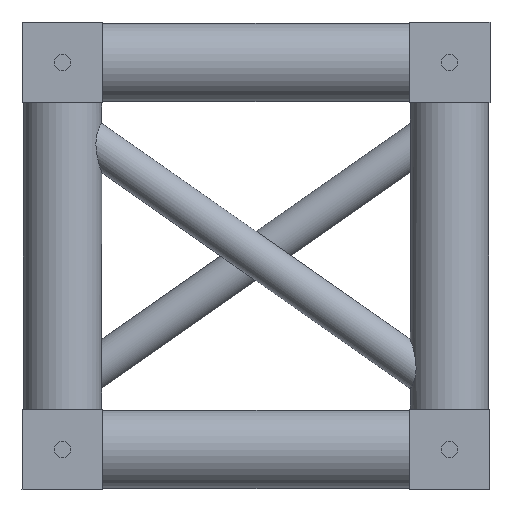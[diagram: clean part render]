
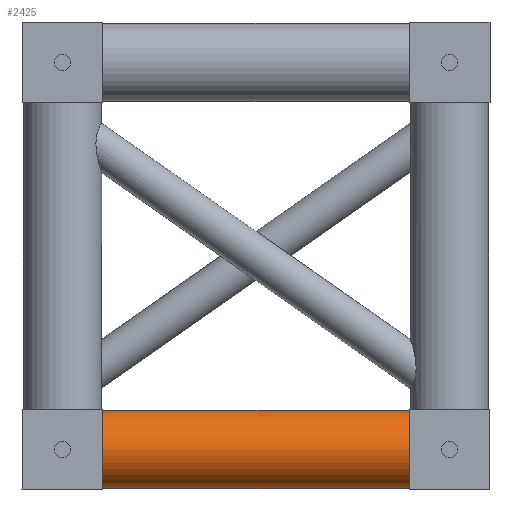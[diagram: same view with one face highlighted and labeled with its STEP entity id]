
A CAD part, front view. The second image highlights one B-rep face of the part: STEP entity #2425.
In plain terms, the highlighted cylindrical face has radius 24.15 mm (diameter 48.3 mm), a full revolution.
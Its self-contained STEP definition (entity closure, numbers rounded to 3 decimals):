
#211=ELLIPSE('',#2599,55.09,24.15);
#410=FACE_BOUND('',#701,.T.);
#411=FACE_BOUND('',#702,.T.);
#540=FACE_OUTER_BOUND('',#700,.T.);
#700=EDGE_LOOP('',(#1615));
#701=EDGE_LOOP('',(#1616));
#702=EDGE_LOOP('',(#1617,#1618));
#970=CIRCLE('',#2597,24.15);
#971=CIRCLE('',#2598,24.15);
#1050=B_SPLINE_CURVE_WITH_KNOTS('',3,(#4025,#4026,#4027,#4028,#4029,#4030,
#4031,#4032,#4033,#4034,#4035,#4036,#4037,#4038,#4039,#4040,#4041,#4042,
#4043,#4044,#4045,#4046,#4047,#4048,#4049,#4050,#4051,#4052,#4053,#4054,
#4055,#4056,#4057,#4058,#4059),.UNSPECIFIED.,.F.,.F.,(4,2,2,2,2,2,2,2,2,
2,2,2,2,3,2,2,4),(3.129,3.356,3.6,3.843,
4.434,5.024,5.508,5.75,5.992,
6.233,6.475,6.959,7.549,8.14,
8.383,8.627,8.854),.UNSPECIFIED.);
#1075=VERTEX_POINT('',#4019);
#1076=VERTEX_POINT('',#4021);
#1077=VERTEX_POINT('',#4023);
#1078=VERTEX_POINT('',#4024);
#1305=EDGE_CURVE('',#1075,#1075,#970,.T.);
#1306=EDGE_CURVE('',#1076,#1076,#971,.T.);
#1307=EDGE_CURVE('',#1077,#1078,#1050,.T.);
#1308=EDGE_CURVE('',#1078,#1077,#211,.T.);
#1615=ORIENTED_EDGE('',*,*,#1305,.F.);
#1616=ORIENTED_EDGE('',*,*,#1306,.F.);
#1617=ORIENTED_EDGE('',*,*,#1307,.F.);
#1618=ORIENTED_EDGE('',*,*,#1308,.F.);
#2198=CYLINDRICAL_SURFACE('',#2596,24.15);
#2425=ADVANCED_FACE('',(#540,#410,#411),#2198,.T.);
#2596=AXIS2_PLACEMENT_3D('',#4018,#2975,#2976);
#2597=AXIS2_PLACEMENT_3D('',#4020,#2977,#2978);
#2598=AXIS2_PLACEMENT_3D('',#4022,#2979,#2980);
#2599=AXIS2_PLACEMENT_3D('',#4060,#2981,#2982);
#2975=DIRECTION('center_axis',(1.,0.,0.));
#2976=DIRECTION('ref_axis',(0.,-0.868,0.497));
#2977=DIRECTION('center_axis',(-1.,0.,0.));
#2978=DIRECTION('ref_axis',(0.,-0.868,0.497));
#2979=DIRECTION('center_axis',(1.,0.,0.));
#2980=DIRECTION('ref_axis',(0.,-0.868,0.497));
#2981=DIRECTION('center_axis',(-0.438,0.899,0.));
#2982=DIRECTION('ref_axis',(-0.899,-0.438,0.));
#4018=CARTESIAN_POINT('Origin',(25.,-339.,-239.));
#4019=CARTESIAN_POINT('',(25.,-318.04,-250.997));
#4020=CARTESIAN_POINT('Origin',(25.,-339.,-239.));
#4021=CARTESIAN_POINT('',(214.,-318.04,-250.997));
#4022=CARTESIAN_POINT('Origin',(214.,-339.,-239.));
#4023=CARTESIAN_POINT('',(199.088,-317.268,-249.533));
#4024=CARTESIAN_POINT('',(199.088,-317.268,-228.467));
#4025=CARTESIAN_POINT('Ctrl Pts',(199.088,-317.268,-249.533));
#4026=CARTESIAN_POINT('Ctrl Pts',(198.451,-317.473,-249.956));
#4027=CARTESIAN_POINT('Ctrl Pts',(197.759,-317.664,-250.318));
#4028=CARTESIAN_POINT('Ctrl Pts',(196.253,-317.992,-250.916));
#4029=CARTESIAN_POINT('Ctrl Pts',(195.431,-318.124,-251.143));
#4030=CARTESIAN_POINT('Ctrl Pts',(193.77,-318.297,-251.435));
#4031=CARTESIAN_POINT('Ctrl Pts',(192.931,-318.337,-251.5));
#4032=CARTESIAN_POINT('Ctrl Pts',(190.151,-318.337,-251.5));
#4033=CARTESIAN_POINT('Ctrl Pts',(188.078,-318.094,-251.116));
#4034=CARTESIAN_POINT('Ctrl Pts',(184.199,-317.337,-249.705));
#4035=CARTESIAN_POINT('Ctrl Pts',(182.391,-316.835,-248.676));
#4036=CARTESIAN_POINT('Ctrl Pts',(179.712,-316.003,-246.451));
#4037=CARTESIAN_POINT('Ctrl Pts',(178.566,-315.604,-245.171));
#4038=CARTESIAN_POINT('Ctrl Pts',(177.363,-315.169,-242.984));
#4039=CARTESIAN_POINT('Ctrl Pts',(177.046,-315.051,-242.21));
#4040=CARTESIAN_POINT('Ctrl Pts',(176.62,-314.891,-240.621));
#4041=CARTESIAN_POINT('Ctrl Pts',(176.511,-314.85,-239.806));
#4042=CARTESIAN_POINT('Ctrl Pts',(176.511,-314.85,-238.194));
#4043=CARTESIAN_POINT('Ctrl Pts',(176.62,-314.891,-237.379));
#4044=CARTESIAN_POINT('Ctrl Pts',(177.046,-315.051,-235.79));
#4045=CARTESIAN_POINT('Ctrl Pts',(177.363,-315.169,-235.016));
#4046=CARTESIAN_POINT('Ctrl Pts',(178.566,-315.604,-232.829));
#4047=CARTESIAN_POINT('Ctrl Pts',(179.712,-316.003,-231.549));
#4048=CARTESIAN_POINT('Ctrl Pts',(182.391,-316.835,-229.324));
#4049=CARTESIAN_POINT('Ctrl Pts',(184.199,-317.337,-228.295));
#4050=CARTESIAN_POINT('Ctrl Pts',(188.078,-318.094,-226.884));
#4051=CARTESIAN_POINT('Ctrl Pts',(190.151,-318.337,-226.5));
#4052=CARTESIAN_POINT('Ctrl Pts',(192.12,-318.337,-226.5));
#4053=CARTESIAN_POINT('Ctrl Pts',(192.931,-318.337,-226.5));
#4054=CARTESIAN_POINT('Ctrl Pts',(193.77,-318.297,-226.565));
#4055=CARTESIAN_POINT('Ctrl Pts',(195.431,-318.124,-226.857));
#4056=CARTESIAN_POINT('Ctrl Pts',(196.253,-317.992,-227.084));
#4057=CARTESIAN_POINT('Ctrl Pts',(197.759,-317.664,-227.682));
#4058=CARTESIAN_POINT('Ctrl Pts',(198.451,-317.473,-228.044));
#4059=CARTESIAN_POINT('Ctrl Pts',(199.088,-317.268,-228.467));
#4060=CARTESIAN_POINT('Origin',(154.53,-339.,-239.));
